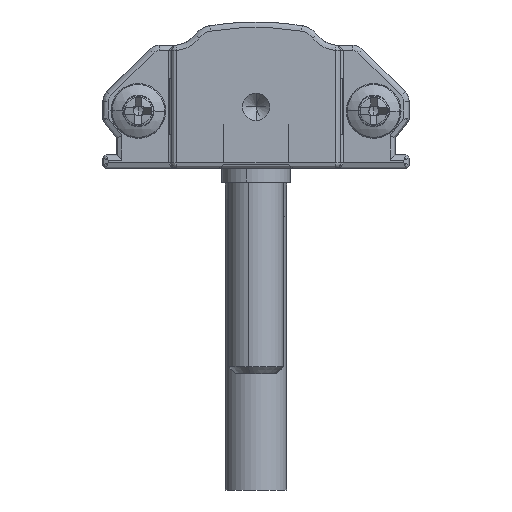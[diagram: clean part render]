
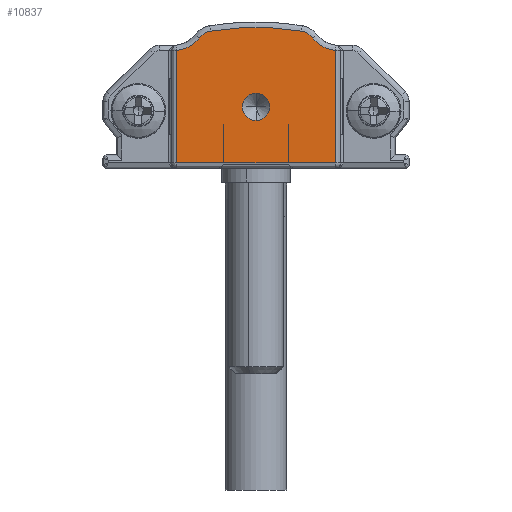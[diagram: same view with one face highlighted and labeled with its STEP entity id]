
A CAD part, front view. The second image highlights one B-rep face of the part: STEP entity #10837.
In plain terms, the highlighted planar face has unit normal (0, -1, 0).
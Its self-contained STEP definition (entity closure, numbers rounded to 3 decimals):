
#263 = AXIS2_PLACEMENT_3D ( 'NONE', #22343, #17004, #25352 ) ;
#371 = LINE ( 'NONE', #10609, #21915 ) ;
#530 = EDGE_CURVE ( 'NONE', #20918, #18252, #371, .T. ) ;
#580 = CARTESIAN_POINT ( 'NONE',  ( 8.1, -15., 8.75 ) ) ;
#610 = CARTESIAN_POINT ( 'NONE',  ( 5.4, -15., 0.4 ) ) ;
#742 = ORIENTED_EDGE ( 'NONE', *, *, #24811, .F. ) ;
#1202 = CARTESIAN_POINT ( 'NONE',  ( 5.4, -15., 0.4 ) ) ;
#1798 = VERTEX_POINT ( 'NONE', #30479 ) ;
#2749 = DIRECTION ( 'NONE',  ( 0., -1., 0. ) ) ;
#2799 = VERTEX_POINT ( 'NONE', #17772 ) ;
#2853 = CARTESIAN_POINT ( 'NONE',  ( 14.508, -15., 10.034 ) ) ;
#3358 = CIRCLE ( 'NONE', #20465, 20.676 ) ;
#3809 = FACE_OUTER_BOUND ( 'NONE', #16498, .T. ) ;
#4112 = AXIS2_PLACEMENT_3D ( 'NONE', #24827, #28145, #30619 ) ;
#6550 = AXIS2_PLACEMENT_3D ( 'NONE', #580, #2749, #25356 ) ;
#6626 = EDGE_CURVE ( 'NONE', #7810, #20918, #21035, .T. ) ;
#6768 = CIRCLE ( 'NONE', #22771, 1.3 ) ;
#6844 = CARTESIAN_POINT ( 'NONE',  ( 22.15, -15., 3.606 ) ) ;
#7075 = CIRCLE ( 'NONE', #6550, 1.3 ) ;
#7158 = VERTEX_POINT ( 'NONE', #22101 ) ;
#7307 = AXIS2_PLACEMENT_3D ( 'NONE', #10032, #27565, #15518 ) ;
#7336 = CARTESIAN_POINT ( 'NONE',  ( 7.892, -15., 10.034 ) ) ;
#7810 = VERTEX_POINT ( 'NONE', #12836 ) ;
#7922 = EDGE_CURVE ( 'NONE', #14902, #9717, #7075, .T. ) ;
#8097 = DIRECTION ( 'NONE',  ( 1., 0., 0. ) ) ;
#8157 = EDGE_CURVE ( 'NONE', #18252, #7158, #32949, .T. ) ;
#8497 = AXIS2_PLACEMENT_3D ( 'NONE', #16151, #26349, #19454 ) ;
#8650 = VECTOR ( 'NONE', #15115, 1000. ) ;
#8695 = CARTESIAN_POINT ( 'NONE',  ( 11.2, -15., -10.376 ) ) ;
#9215 = FACE_BOUND ( 'NONE', #21639, .T. ) ;
#9368 = EDGE_CURVE ( 'NONE', #31665, #14902, #3358, .T. ) ;
#9671 = ORIENTED_EDGE ( 'NONE', *, *, #8157, .T. ) ;
#9717 = VERTEX_POINT ( 'NONE', #26040 ) ;
#10032 = CARTESIAN_POINT ( 'NONE',  ( 11.2, -15., 4.5 ) ) ;
#10609 = CARTESIAN_POINT ( 'NONE',  ( 17., -15., 0.4 ) ) ;
#10837 = ADVANCED_FACE ( 'NONE', ( #3809, #9215 ), #19375, .T. ) ;
#11226 = VECTOR ( 'NONE', #20686, 1000. ) ;
#11689 = CARTESIAN_POINT ( 'NONE',  ( 14.3, -15., 8.75 ) ) ;
#12197 = ORIENTED_EDGE ( 'NONE', *, *, #31372, .T. ) ;
#12836 = CARTESIAN_POINT ( 'NONE',  ( 5.4, -15., 8.612 ) ) ;
#13884 = ORIENTED_EDGE ( 'NONE', *, *, #530, .T. ) ;
#14175 = AXIS2_PLACEMENT_3D ( 'NONE', #6844, #32168, #15009 ) ;
#14902 = VERTEX_POINT ( 'NONE', #7336 ) ;
#15009 = DIRECTION ( 'NONE',  ( 0., 0., -1. ) ) ;
#15115 = DIRECTION ( 'NONE',  ( 0., 0., 1. ) ) ;
#15518 = DIRECTION ( 'NONE',  ( 0., 0., -1. ) ) ;
#16151 = CARTESIAN_POINT ( 'NONE',  ( 17.238, -15., 11. ) ) ;
#16498 = EDGE_LOOP ( 'NONE', ( #9671, #12197, #18733, #19753, #23901, #24688, #30376, #13884 ) ) ;
#17004 = DIRECTION ( 'NONE',  ( 0., -1., 0. ) ) ;
#17772 = CARTESIAN_POINT ( 'NONE',  ( 11.2, -15., 3.5 ) ) ;
#18252 = VERTEX_POINT ( 'NONE', #23616 ) ;
#18572 = CIRCLE ( 'NONE', #4112, 2.4 ) ;
#18583 = VERTEX_POINT ( 'NONE', #24365 ) ;
#18733 = ORIENTED_EDGE ( 'NONE', *, *, #19303, .T. ) ;
#18883 = DIRECTION ( 'NONE',  ( 0., -1., 0. ) ) ;
#19303 = EDGE_CURVE ( 'NONE', #1798, #31665, #6768, .T. ) ;
#19375 = PLANE ( 'NONE',  #14175 ) ;
#19454 = DIRECTION ( 'NONE',  ( 0., 0., -1. ) ) ;
#19701 = EDGE_CURVE ( 'NONE', #9717, #7810, #18572, .T. ) ;
#19753 = ORIENTED_EDGE ( 'NONE', *, *, #9368, .T. ) ;
#20465 = AXIS2_PLACEMENT_3D ( 'NONE', #8695, #18883, #31851 ) ;
#20686 = DIRECTION ( 'NONE',  ( 0., 0., -1. ) ) ;
#20795 = CARTESIAN_POINT ( 'NONE',  ( 17., -15., 8.612 ) ) ;
#20918 = VERTEX_POINT ( 'NONE', #1202 ) ;
#21035 = LINE ( 'NONE', #610, #11226 ) ;
#21613 = ORIENTED_EDGE ( 'NONE', *, *, #23407, .F. ) ;
#21639 = EDGE_LOOP ( 'NONE', ( #742, #21613 ) ) ;
#21915 = VECTOR ( 'NONE', #8097, 1000. ) ;
#22101 = CARTESIAN_POINT ( 'NONE',  ( 17., -15., 8.612 ) ) ;
#22249 = CIRCLE ( 'NONE', #7307, 1. ) ;
#22343 = CARTESIAN_POINT ( 'NONE',  ( 11.2, -15., 4.5 ) ) ;
#22771 = AXIS2_PLACEMENT_3D ( 'NONE', #11689, #29364, #32148 ) ;
#23407 = EDGE_CURVE ( 'NONE', #18583, #2799, #25901, .T. ) ;
#23616 = CARTESIAN_POINT ( 'NONE',  ( 17., -15., 0.4 ) ) ;
#23901 = ORIENTED_EDGE ( 'NONE', *, *, #7922, .T. ) ;
#24365 = CARTESIAN_POINT ( 'NONE',  ( 11.2, -15., 5.5 ) ) ;
#24688 = ORIENTED_EDGE ( 'NONE', *, *, #19701, .T. ) ;
#24811 = EDGE_CURVE ( 'NONE', #2799, #18583, #22249, .T. ) ;
#24827 = CARTESIAN_POINT ( 'NONE',  ( 5.162, -15., 11. ) ) ;
#25352 = DIRECTION ( 'NONE',  ( 0., 0., -1. ) ) ;
#25356 = DIRECTION ( 'NONE',  ( 0., 0., -1. ) ) ;
#25901 = CIRCLE ( 'NONE', #263, 1. ) ;
#26040 = CARTESIAN_POINT ( 'NONE',  ( 7.068, -15., 9.541 ) ) ;
#26349 = DIRECTION ( 'NONE',  ( 0., 1., 0. ) ) ;
#27565 = DIRECTION ( 'NONE',  ( 0., -1., 0. ) ) ;
#28145 = DIRECTION ( 'NONE',  ( 0., 1., 0. ) ) ;
#29364 = DIRECTION ( 'NONE',  ( 0., -1., 0. ) ) ;
#30317 = CIRCLE ( 'NONE', #8497, 2.4 ) ;
#30376 = ORIENTED_EDGE ( 'NONE', *, *, #6626, .T. ) ;
#30479 = CARTESIAN_POINT ( 'NONE',  ( 15.332, -15., 9.541 ) ) ;
#30619 = DIRECTION ( 'NONE',  ( 0., 0., -1. ) ) ;
#31372 = EDGE_CURVE ( 'NONE', #7158, #1798, #30317, .T. ) ;
#31665 = VERTEX_POINT ( 'NONE', #2853 ) ;
#31851 = DIRECTION ( 'NONE',  ( 0., 0., -1. ) ) ;
#32148 = DIRECTION ( 'NONE',  ( 0., 0., -1. ) ) ;
#32168 = DIRECTION ( 'NONE',  ( 0., -1., 0. ) ) ;
#32949 = LINE ( 'NONE', #20795, #8650 ) ;
